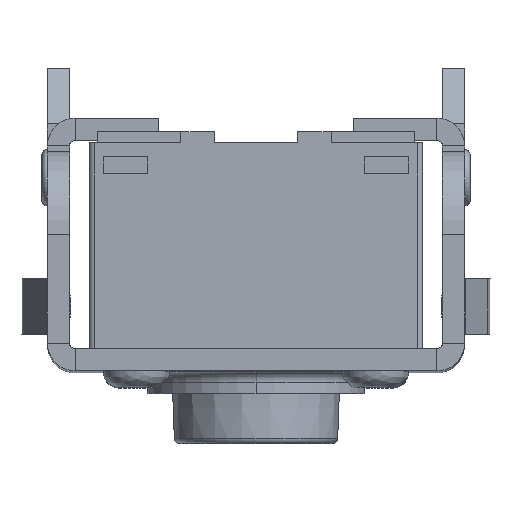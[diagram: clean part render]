
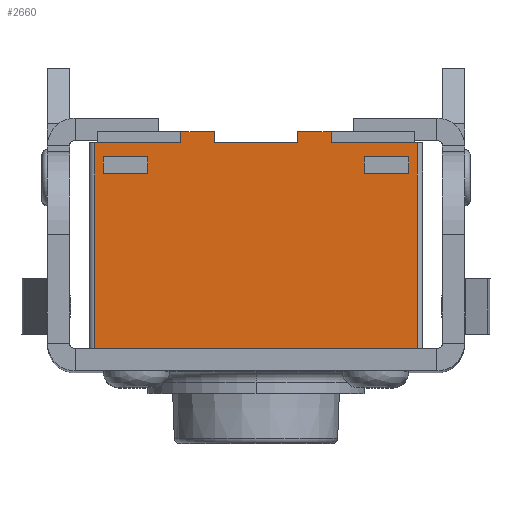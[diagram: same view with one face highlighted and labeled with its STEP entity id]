
A CAD part, top view. The second image highlights one B-rep face of the part: STEP entity #2660.
In plain terms, the highlighted planar face has unit normal (0, 0, 1).
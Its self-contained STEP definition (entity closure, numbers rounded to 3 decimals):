
#129=DIRECTION('',(1.,0.,0.));
#130=VECTOR('',#129,5.8);
#131=CARTESIAN_POINT('',(-2.9,0.,3.));
#132=LINE('',#131,#130);
#680=DIRECTION('',(0.,-1.,0.));
#681=VECTOR('',#680,3.7);
#682=CARTESIAN_POINT('',(-2.9,3.7,3.));
#683=LINE('',#682,#681);
#687=DIRECTION('',(1.,0.,0.));
#688=VECTOR('',#687,1.55);
#689=CARTESIAN_POINT('',(-2.9,3.7,3.));
#690=LINE('',#689,#688);
#694=DIRECTION('',(0.,-1.,0.));
#695=VECTOR('',#694,0.2);
#696=CARTESIAN_POINT('',(-1.35,3.9,3.));
#697=LINE('',#696,#695);
#701=DIRECTION('',(0.,-1.,0.));
#702=VECTOR('',#701,0.2);
#703=CARTESIAN_POINT('',(-0.75,3.9,3.));
#704=LINE('',#703,#702);
#708=DIRECTION('',(1.,0.,0.));
#709=VECTOR('',#708,1.5);
#710=CARTESIAN_POINT('',(-0.75,3.7,3.));
#711=LINE('',#710,#709);
#715=DIRECTION('',(0.,-1.,0.));
#716=VECTOR('',#715,0.2);
#717=CARTESIAN_POINT('',(0.75,3.9,3.));
#718=LINE('',#717,#716);
#722=DIRECTION('',(0.,-1.,0.));
#723=VECTOR('',#722,0.2);
#724=CARTESIAN_POINT('',(1.35,3.9,3.));
#725=LINE('',#724,#723);
#729=DIRECTION('',(1.,0.,0.));
#730=VECTOR('',#729,1.55);
#731=CARTESIAN_POINT('',(1.35,3.7,3.));
#732=LINE('',#731,#730);
#736=DIRECTION('',(0.,-1.,0.));
#737=VECTOR('',#736,3.7);
#738=CARTESIAN_POINT('',(2.9,3.7,3.));
#739=LINE('',#738,#737);
#743=DIRECTION('',(0.,1.,0.));
#744=VECTOR('',#743,0.3);
#745=CARTESIAN_POINT('',(-2.75,3.15,3.));
#746=LINE('',#745,#744);
#750=DIRECTION('',(-1.,0.,0.));
#751=VECTOR('',#750,0.8);
#752=CARTESIAN_POINT('',(-1.95,3.15,3.));
#753=LINE('',#752,#751);
#757=DIRECTION('',(0.,-1.,0.));
#758=VECTOR('',#757,0.3);
#759=CARTESIAN_POINT('',(-1.95,3.45,3.));
#760=LINE('',#759,#758);
#764=DIRECTION('',(1.,0.,0.));
#765=VECTOR('',#764,0.8);
#766=CARTESIAN_POINT('',(-2.75,3.45,3.));
#767=LINE('',#766,#765);
#771=DIRECTION('',(-1.,0.,0.));
#772=VECTOR('',#771,0.8);
#773=CARTESIAN_POINT('',(2.75,3.15,3.));
#774=LINE('',#773,#772);
#778=DIRECTION('',(0.,-1.,0.));
#779=VECTOR('',#778,0.3);
#780=CARTESIAN_POINT('',(2.75,3.45,3.));
#781=LINE('',#780,#779);
#785=DIRECTION('',(1.,0.,0.));
#786=VECTOR('',#785,0.8);
#787=CARTESIAN_POINT('',(1.95,3.45,3.));
#788=LINE('',#787,#786);
#792=DIRECTION('',(0.,1.,0.));
#793=VECTOR('',#792,0.3);
#794=CARTESIAN_POINT('',(1.95,3.15,3.));
#795=LINE('',#794,#793);
#1013=DIRECTION('',(1.,0.,0.));
#1014=VECTOR('',#1013,0.6);
#1015=CARTESIAN_POINT('',(-1.35,3.9,3.));
#1016=LINE('',#1015,#1014);
#1153=DIRECTION('',(1.,0.,0.));
#1154=VECTOR('',#1153,0.6);
#1155=CARTESIAN_POINT('',(0.75,3.9,3.));
#1156=LINE('',#1155,#1154);
#1614=CARTESIAN_POINT('',(-1.35,3.7,3.));
#1615=VERTEX_POINT('',#1614);
#1617=CARTESIAN_POINT('',(-0.75,3.7,3.));
#1619=VERTEX_POINT('',#1617);
#1620=CARTESIAN_POINT('',(0.75,3.7,3.));
#1622=VERTEX_POINT('',#1620);
#1624=CARTESIAN_POINT('',(1.35,3.7,3.));
#1625=VERTEX_POINT('',#1624);
#1684=CARTESIAN_POINT('',(-2.75,3.15,3.));
#1685=VERTEX_POINT('',#1684);
#1688=CARTESIAN_POINT('',(-2.75,3.45,3.));
#1689=VERTEX_POINT('',#1688);
#1692=CARTESIAN_POINT('',(-1.95,3.45,3.));
#1693=VERTEX_POINT('',#1692);
#1694=CARTESIAN_POINT('',(-1.95,3.15,3.));
#1695=VERTEX_POINT('',#1694);
#1696=CARTESIAN_POINT('',(2.75,3.15,3.));
#1697=VERTEX_POINT('',#1696);
#1700=CARTESIAN_POINT('',(1.95,3.15,3.));
#1701=VERTEX_POINT('',#1700);
#1702=CARTESIAN_POINT('',(1.95,3.45,3.));
#1703=VERTEX_POINT('',#1702);
#1704=CARTESIAN_POINT('',(2.75,3.45,3.));
#1705=VERTEX_POINT('',#1704);
#1718=CARTESIAN_POINT('',(-1.35,3.9,3.));
#1719=VERTEX_POINT('',#1718);
#1720=CARTESIAN_POINT('',(-0.75,3.9,3.));
#1722=VERTEX_POINT('',#1720);
#1724=CARTESIAN_POINT('',(0.75,3.9,3.));
#1726=VERTEX_POINT('',#1724);
#1728=CARTESIAN_POINT('',(1.35,3.9,3.));
#1729=VERTEX_POINT('',#1728);
#1816=CARTESIAN_POINT('',(-2.9,0.,3.));
#1818=VERTEX_POINT('',#1816);
#1822=CARTESIAN_POINT('',(-2.9,3.7,3.));
#1823=VERTEX_POINT('',#1822);
#1825=CARTESIAN_POINT('',(2.9,0.,3.));
#1827=VERTEX_POINT('',#1825);
#1828=CARTESIAN_POINT('',(2.9,3.7,3.));
#1829=VERTEX_POINT('',#1828);
#2611=CARTESIAN_POINT('',(-3.,0.,3.));
#2612=DIRECTION('',(0.,0.,1.));
#2613=DIRECTION('',(1.,0.,0.));
#2614=AXIS2_PLACEMENT_3D('',#2611,#2612,#2613);
#2615=PLANE('',#2614);
#2617=ORIENTED_EDGE('',*,*,#2616,.F.);
#2619=ORIENTED_EDGE('',*,*,#2618,.T.);
#2621=ORIENTED_EDGE('',*,*,#2620,.F.);
#2623=ORIENTED_EDGE('',*,*,#2622,.T.);
#2625=ORIENTED_EDGE('',*,*,#2624,.T.);
#2627=ORIENTED_EDGE('',*,*,#2626,.T.);
#2629=ORIENTED_EDGE('',*,*,#2628,.F.);
#2631=ORIENTED_EDGE('',*,*,#2630,.T.);
#2633=ORIENTED_EDGE('',*,*,#2632,.T.);
#2635=ORIENTED_EDGE('',*,*,#2634,.T.);
#2636=ORIENTED_EDGE('',*,*,#2603,.T.);
#2637=ORIENTED_EDGE('',*,*,#1875,.F.);
#2638=EDGE_LOOP('',(#2617,#2619,#2621,#2623,#2625,#2627,#2629,#2631,#2633,#2635,
#2636,#2637));
#2639=FACE_OUTER_BOUND('',#2638,.F.);
#2641=ORIENTED_EDGE('',*,*,#2640,.F.);
#2643=ORIENTED_EDGE('',*,*,#2642,.F.);
#2645=ORIENTED_EDGE('',*,*,#2644,.F.);
#2647=ORIENTED_EDGE('',*,*,#2646,.F.);
#2648=EDGE_LOOP('',(#2641,#2643,#2645,#2647));
#2649=FACE_BOUND('',#2648,.F.);
#2651=ORIENTED_EDGE('',*,*,#2650,.F.);
#2653=ORIENTED_EDGE('',*,*,#2652,.F.);
#2655=ORIENTED_EDGE('',*,*,#2654,.F.);
#2657=ORIENTED_EDGE('',*,*,#2656,.F.);
#2658=EDGE_LOOP('',(#2651,#2653,#2655,#2657));
#2659=FACE_BOUND('',#2658,.F.);
#1875=EDGE_CURVE('',#1818,#1827,#132,.T.);
#2603=EDGE_CURVE('',#1829,#1827,#739,.T.);
#2616=EDGE_CURVE('',#1823,#1818,#683,.T.);
#2618=EDGE_CURVE('',#1823,#1615,#690,.T.);
#2620=EDGE_CURVE('',#1719,#1615,#697,.T.);
#2622=EDGE_CURVE('',#1719,#1722,#1016,.T.);
#2624=EDGE_CURVE('',#1722,#1619,#704,.T.);
#2626=EDGE_CURVE('',#1619,#1622,#711,.T.);
#2628=EDGE_CURVE('',#1726,#1622,#718,.T.);
#2630=EDGE_CURVE('',#1726,#1729,#1156,.T.);
#2632=EDGE_CURVE('',#1729,#1625,#725,.T.);
#2634=EDGE_CURVE('',#1625,#1829,#732,.T.);
#2640=EDGE_CURVE('',#1685,#1689,#746,.T.);
#2642=EDGE_CURVE('',#1695,#1685,#753,.T.);
#2644=EDGE_CURVE('',#1693,#1695,#760,.T.);
#2646=EDGE_CURVE('',#1689,#1693,#767,.T.);
#2650=EDGE_CURVE('',#1697,#1701,#774,.T.);
#2652=EDGE_CURVE('',#1705,#1697,#781,.T.);
#2654=EDGE_CURVE('',#1703,#1705,#788,.T.);
#2656=EDGE_CURVE('',#1701,#1703,#795,.T.);
#2660=ADVANCED_FACE('',(#2639,#2649,#2659),#2615,.T.);
